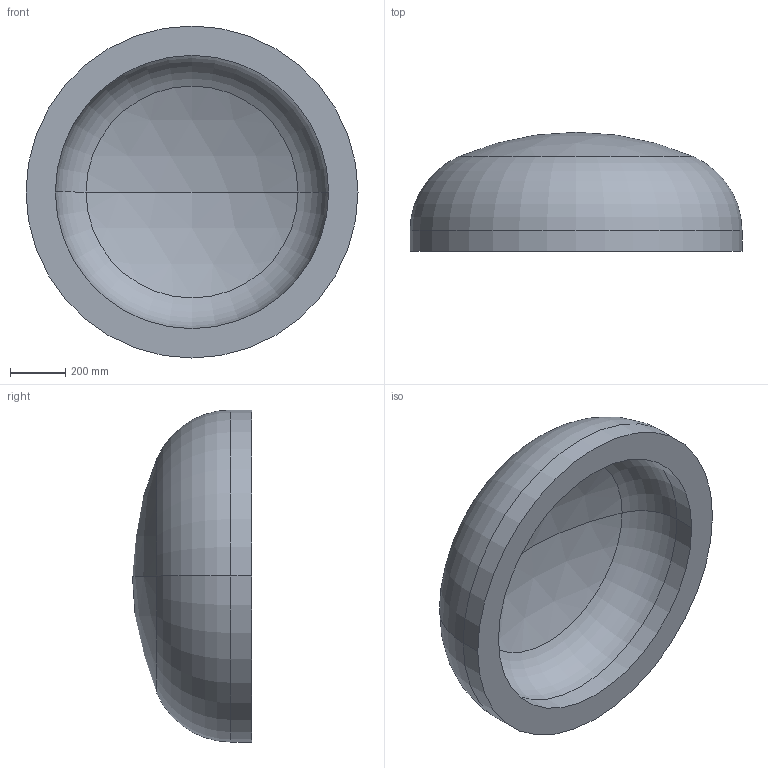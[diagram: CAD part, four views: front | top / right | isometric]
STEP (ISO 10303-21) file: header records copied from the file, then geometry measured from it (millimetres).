
FILE_DESCRIPTION (( 'STEP AP203' ), '1' );
FILE_NAME ('DIN 28013 Korbbogenform_-_Boden DIN 28013 - 1200 x 75 - I - s=106.step', '2016-07-01T09:38:32', ( '' ), ( '' ), 'SwSTEP 2.0', 'SolidWorks 2013', '' );
FILE_SCHEMA (( 'CONFIG_CONTROL_DESIGN' ));
Length unit declared in the file: millimetre
Products named in the file (1): DIN 28013 Korbbogenform_-_Boden DIN 28013 - 1200 x 75 - I - s=106
Bounding box: 1200 x 430.27 x 1200 mm (x, y, z)
Volume: 176068585.9 mm3; surface area: 3709892.4 mm2
Topology: 1 solids, 1 shells, 13 faces, 24 edges, 14 vertices
Faces by surface type: torus 4, cylinder 4, sphere 4, plane 1
Entity records: 407 total; most frequent: DIRECTION 72, CARTESIAN_POINT 52, ORIENTED_EDGE 48, AXIS2_PLACEMENT_3D 34, EDGE_CURVE 24, CIRCLE 20, EDGE_LOOP 14, VERTEX_POINT 14
